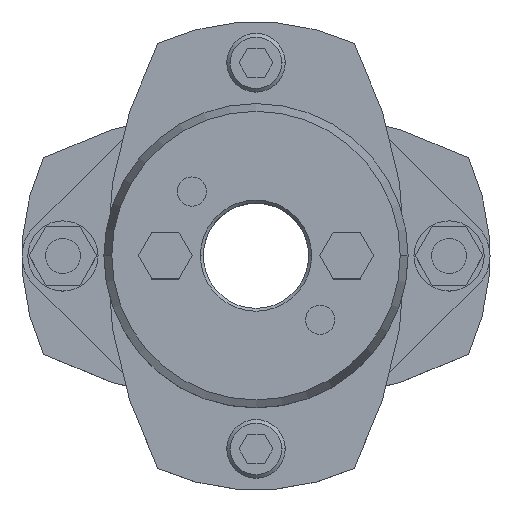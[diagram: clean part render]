
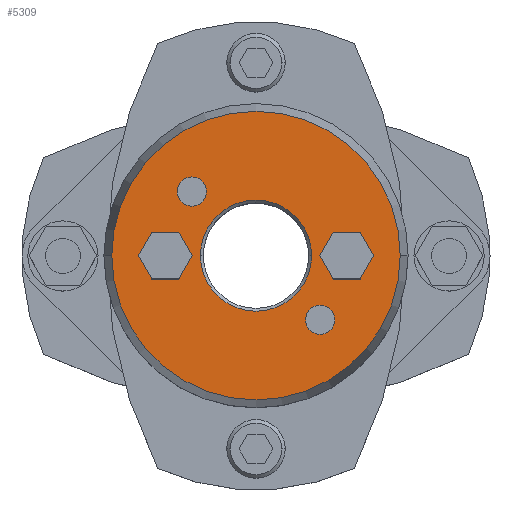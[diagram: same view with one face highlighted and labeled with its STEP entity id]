
A CAD part, top view. The second image highlights one B-rep face of the part: STEP entity #5309.
In plain terms, the highlighted planar face has unit normal (0, 0, 1).
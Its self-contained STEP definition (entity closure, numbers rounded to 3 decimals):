
#857=CARTESIAN_POINT('',(-9.5,0.,35.875));
#858=VERTEX_POINT('',#857);
#874=CARTESIAN_POINT('',(9.5,0.,35.875));
#875=VERTEX_POINT('',#874);
#882=CARTESIAN_POINT('',(0.,0.,35.875));
#883=DIRECTION('',(0.0,0.0,1.0));
#884=DIRECTION('',(-1.0,0.0,0.0));
#885=AXIS2_PLACEMENT_3D('',#882,#883,#884);
#886=CIRCLE('',#885,9.5);
#887=EDGE_CURVE('',#875,#858,#886,.T.);
#1045=CARTESIAN_POINT('',(24.66,0.,35.875));
#1046=VERTEX_POINT('',#1045);
#1053=CARTESIAN_POINT('',(-24.66,0.,35.875));
#1054=VERTEX_POINT('',#1053);
#1055=CARTESIAN_POINT('',(0.,0.,35.875));
#1056=DIRECTION('',(0.0,0.0,-1.0));
#1057=DIRECTION('',(1.0,0.0,0.0));
#1058=AXIS2_PLACEMENT_3D('',#1055,#1056,#1057);
#1059=CIRCLE('',#1058,24.66);
#1060=EDGE_CURVE('',#1046,#1054,#1059,.T.);
#1155=CARTESIAN_POINT('',(-13.46,10.96,35.875));
#1156=VERTEX_POINT('',#1155);
#1172=CARTESIAN_POINT('',(-8.46,10.96,35.875));
#1173=VERTEX_POINT('',#1172);
#1180=CARTESIAN_POINT('',(-10.96,10.96,35.875));
#1181=DIRECTION('',(0.0,0.0,-1.0));
#1182=DIRECTION('',(-1.0,0.0,0.0));
#1183=AXIS2_PLACEMENT_3D('',#1180,#1181,#1182);
#1184=CIRCLE('',#1183,2.5);
#1185=EDGE_CURVE('',#1156,#1173,#1184,.T.);
#1197=CARTESIAN_POINT('',(8.46,-10.96,35.875));
#1198=VERTEX_POINT('',#1197);
#1214=CARTESIAN_POINT('',(13.46,-10.96,35.875));
#1215=VERTEX_POINT('',#1214);
#1222=CARTESIAN_POINT('',(10.96,-10.96,35.875));
#1223=DIRECTION('',(0.0,0.0,-1.0));
#1224=DIRECTION('',(-1.0,0.0,0.0));
#1225=AXIS2_PLACEMENT_3D('',#1222,#1223,#1224);
#1226=CIRCLE('',#1225,2.5);
#1227=EDGE_CURVE('',#1198,#1215,#1226,.T.);
#4553=CARTESIAN_POINT('',(10.881,0.,35.875));
#4554=VERTEX_POINT('',#4553);
#4561=CARTESIAN_POINT('',(13.191,-4.,35.875));
#4562=VERTEX_POINT('',#4561);
#4563=CARTESIAN_POINT('',(13.191,-4.,35.875));
#4564=DIRECTION('',(-0.5,0.866,0.0));
#4565=VECTOR('',#4564,4.619);
#4566=LINE('',#4563,#4565);
#4567=EDGE_CURVE('',#4562,#4554,#4566,.T.);
#4591=CARTESIAN_POINT('',(13.191,4.,35.875));
#4592=VERTEX_POINT('',#4591);
#4599=CARTESIAN_POINT('',(10.881,0.,35.875));
#4600=DIRECTION('',(0.5,0.866,0.0));
#4601=VECTOR('',#4600,4.619);
#4602=LINE('',#4599,#4601);
#4603=EDGE_CURVE('',#4554,#4592,#4602,.T.);
#4622=CARTESIAN_POINT('',(17.809,4.,35.875));
#4623=VERTEX_POINT('',#4622);
#4630=CARTESIAN_POINT('',(13.191,4.,35.875));
#4631=DIRECTION('',(1.0,0.0,0.0));
#4632=VECTOR('',#4631,4.619);
#4633=LINE('',#4630,#4632);
#4634=EDGE_CURVE('',#4592,#4623,#4633,.T.);
#4653=CARTESIAN_POINT('',(20.119,0.,35.875));
#4654=VERTEX_POINT('',#4653);
#4661=CARTESIAN_POINT('',(17.809,4.,35.875));
#4662=DIRECTION('',(0.5,-0.866,0.0));
#4663=VECTOR('',#4662,4.619);
#4664=LINE('',#4661,#4663);
#4665=EDGE_CURVE('',#4623,#4654,#4664,.T.);
#4684=CARTESIAN_POINT('',(17.809,-4.,35.875));
#4685=VERTEX_POINT('',#4684);
#4692=CARTESIAN_POINT('',(20.119,0.,35.875));
#4693=DIRECTION('',(-0.5,-0.866,0.0));
#4694=VECTOR('',#4693,4.619);
#4695=LINE('',#4692,#4694);
#4696=EDGE_CURVE('',#4654,#4685,#4695,.T.);
#4714=CARTESIAN_POINT('',(17.809,-4.,35.875));
#4715=DIRECTION('',(-1.0,0.0,0.0));
#4716=VECTOR('',#4715,4.619);
#4717=LINE('',#4714,#4716);
#4718=EDGE_CURVE('',#4685,#4562,#4717,.T.);
#4753=CARTESIAN_POINT('',(-20.119,0.,35.875));
#4754=VERTEX_POINT('',#4753);
#4761=CARTESIAN_POINT('',(-17.809,-4.,35.875));
#4762=VERTEX_POINT('',#4761);
#4763=CARTESIAN_POINT('',(-17.809,-4.,35.875));
#4764=DIRECTION('',(-0.5,0.866,0.0));
#4765=VECTOR('',#4764,4.619);
#4766=LINE('',#4763,#4765);
#4767=EDGE_CURVE('',#4762,#4754,#4766,.T.);
#4791=CARTESIAN_POINT('',(-17.809,4.,35.875));
#4792=VERTEX_POINT('',#4791);
#4799=CARTESIAN_POINT('',(-20.119,0.,35.875));
#4800=DIRECTION('',(0.5,0.866,0.0));
#4801=VECTOR('',#4800,4.619);
#4802=LINE('',#4799,#4801);
#4803=EDGE_CURVE('',#4754,#4792,#4802,.T.);
#4822=CARTESIAN_POINT('',(-13.191,4.,35.875));
#4823=VERTEX_POINT('',#4822);
#4830=CARTESIAN_POINT('',(-17.809,4.,35.875));
#4831=DIRECTION('',(1.0,0.0,0.0));
#4832=VECTOR('',#4831,4.619);
#4833=LINE('',#4830,#4832);
#4834=EDGE_CURVE('',#4792,#4823,#4833,.T.);
#4853=CARTESIAN_POINT('',(-10.881,0.,35.875));
#4854=VERTEX_POINT('',#4853);
#4861=CARTESIAN_POINT('',(-13.191,4.,35.875));
#4862=DIRECTION('',(0.5,-0.866,0.0));
#4863=VECTOR('',#4862,4.619);
#4864=LINE('',#4861,#4863);
#4865=EDGE_CURVE('',#4823,#4854,#4864,.T.);
#4884=CARTESIAN_POINT('',(-13.191,-4.,35.875));
#4885=VERTEX_POINT('',#4884);
#4892=CARTESIAN_POINT('',(-10.881,0.,35.875));
#4893=DIRECTION('',(-0.5,-0.866,0.0));
#4894=VECTOR('',#4893,4.619);
#4895=LINE('',#4892,#4894);
#4896=EDGE_CURVE('',#4854,#4885,#4895,.T.);
#4914=CARTESIAN_POINT('',(-13.191,-4.,35.875));
#4915=DIRECTION('',(-1.0,0.0,0.0));
#4916=VECTOR('',#4915,4.619);
#4917=LINE('',#4914,#4916);
#4918=EDGE_CURVE('',#4885,#4762,#4917,.T.);
#4944=CARTESIAN_POINT('',(10.96,-10.96,35.875));
#4945=DIRECTION('',(0.0,0.0,-1.0));
#4946=DIRECTION('',(-1.0,0.0,0.0));
#4947=AXIS2_PLACEMENT_3D('',#4944,#4945,#4946);
#4948=CIRCLE('',#4947,2.5);
#4949=EDGE_CURVE('',#1215,#1198,#4948,.T.);
#4978=CARTESIAN_POINT('',(-10.96,10.96,35.875));
#4979=DIRECTION('',(0.0,0.0,-1.0));
#4980=DIRECTION('',(-1.0,0.0,0.0));
#4981=AXIS2_PLACEMENT_3D('',#4978,#4979,#4980);
#4982=CIRCLE('',#4981,2.5);
#4983=EDGE_CURVE('',#1173,#1156,#4982,.T.);
#5256=CARTESIAN_POINT('',(0.,0.,35.875));
#5257=DIRECTION('',(0.0,0.0,-1.0));
#5258=DIRECTION('',(1.0,0.0,0.0));
#5259=AXIS2_PLACEMENT_3D('',#5256,#5257,#5258);
#5260=CIRCLE('',#5259,24.66);
#5261=EDGE_CURVE('',#1054,#1046,#5260,.T.);
#5266=CARTESIAN_POINT('',(-2.364,0.,35.875));
#5267=DIRECTION('',(0.0,0.0,1.0));
#5268=DIRECTION('',(-1.0,0.0,0.0));
#5269=AXIS2_PLACEMENT_3D('',#5266,#5267,#5268);
#5270=PLANE('',#5269);
#5271=ORIENTED_EDGE('',*,*,#5261,.F.);
#5272=ORIENTED_EDGE('',*,*,#1060,.F.);
#5273=EDGE_LOOP('',(#5271,#5272));
#5274=FACE_OUTER_BOUND('',#5273,.T.);
#5275=ORIENTED_EDGE('',*,*,#4567,.T.);
#5276=ORIENTED_EDGE('',*,*,#4603,.T.);
#5277=ORIENTED_EDGE('',*,*,#4634,.T.);
#5278=ORIENTED_EDGE('',*,*,#4665,.T.);
#5279=ORIENTED_EDGE('',*,*,#4696,.T.);
#5280=ORIENTED_EDGE('',*,*,#4718,.T.);
#5281=EDGE_LOOP('',(#5275,#5276,#5277,#5278,#5279,#5280));
#5282=FACE_BOUND('',#5281,.T.);
#5283=ORIENTED_EDGE('',*,*,#4767,.T.);
#5284=ORIENTED_EDGE('',*,*,#4803,.T.);
#5285=ORIENTED_EDGE('',*,*,#4834,.T.);
#5286=ORIENTED_EDGE('',*,*,#4865,.T.);
#5287=ORIENTED_EDGE('',*,*,#4896,.T.);
#5288=ORIENTED_EDGE('',*,*,#4918,.T.);
#5289=EDGE_LOOP('',(#5283,#5284,#5285,#5286,#5287,#5288));
#5290=FACE_BOUND('',#5289,.T.);
#5291=ORIENTED_EDGE('',*,*,#1227,.T.);
#5292=ORIENTED_EDGE('',*,*,#4949,.T.);
#5293=EDGE_LOOP('',(#5291,#5292));
#5294=FACE_BOUND('',#5293,.T.);
#5295=ORIENTED_EDGE('',*,*,#1185,.T.);
#5296=ORIENTED_EDGE('',*,*,#4983,.T.);
#5297=EDGE_LOOP('',(#5295,#5296));
#5298=FACE_BOUND('',#5297,.T.);
#5299=ORIENTED_EDGE('',*,*,#887,.F.);
#5300=CARTESIAN_POINT('',(0.,0.,35.875));
#5301=DIRECTION('',(0.0,0.0,1.0));
#5302=DIRECTION('',(-1.0,0.0,0.0));
#5303=AXIS2_PLACEMENT_3D('',#5300,#5301,#5302);
#5304=CIRCLE('',#5303,9.5);
#5305=EDGE_CURVE('',#858,#875,#5304,.T.);
#5306=ORIENTED_EDGE('',*,*,#5305,.F.);
#5307=EDGE_LOOP('',(#5299,#5306));
#5308=FACE_BOUND('',#5307,.T.);
#5309=ADVANCED_FACE('',(#5274,#5282,#5290,#5294,#5298,#5308),#5270,.T.);
